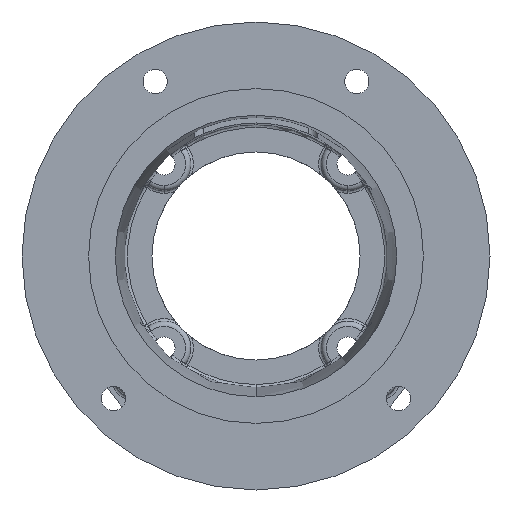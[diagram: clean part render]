
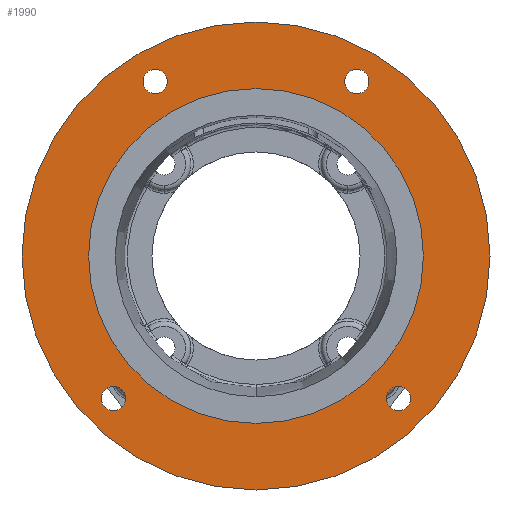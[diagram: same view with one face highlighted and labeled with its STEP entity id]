
A CAD part, front view. The second image highlights one B-rep face of the part: STEP entity #1990.
In plain terms, the highlighted planar face has unit normal (0, -1, 0).
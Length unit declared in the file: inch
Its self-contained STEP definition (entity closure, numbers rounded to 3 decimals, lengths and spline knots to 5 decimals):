
#14 = EDGE_CURVE ( 'NONE', #4776, #6218, #3072, .T. ) ;
#109 = CARTESIAN_POINT ( 'NONE',  ( -1.9375, 0., 3.12147 ) ) ;
#159 = AXIS2_PLACEMENT_3D ( 'NONE', #6653, #897, #7604 ) ;
#320 = EDGE_LOOP ( 'NONE', ( #2661, #9990 ) ) ;
#321 = DIRECTION ( 'NONE',  ( 0., -1., 0. ) ) ;
#381 = CARTESIAN_POINT ( 'NONE',  ( -1.9375, 0., 3.35585 ) ) ;
#477 = VERTEX_POINT ( 'NONE', #6148 ) ;
#499 = ORIENTED_EDGE ( 'NONE', *, *, #1631, .F. ) ;
#509 = EDGE_CURVE ( 'NONE', #12316, #2180, #11828, .T. ) ;
#870 = DIRECTION ( 'NONE',  ( 0., 0., -1. ) ) ;
#897 = DIRECTION ( 'NONE',  ( 0., 1., 0. ) ) ;
#984 = ORIENTED_EDGE ( 'NONE', *, *, #2932, .F. ) ;
#986 = EDGE_CURVE ( 'NONE', #12276, #6348, #11372, .T. ) ;
#1161 = CARTESIAN_POINT ( 'NONE',  ( 0., 0., 4.5 ) ) ;
#1465 = EDGE_CURVE ( 'NONE', #6348, #12276, #6133, .T. ) ;
#1476 = CARTESIAN_POINT ( 'NONE',  ( 2.74004, 0., -2.74004 ) ) ;
#1518 = AXIS2_PLACEMENT_3D ( 'NONE', #2127, #8839, #3106 ) ;
#1592 = CARTESIAN_POINT ( 'NONE',  ( 0., 0., -3.2195 ) ) ;
#1631 = EDGE_CURVE ( 'NONE', #2180, #12316, #2381, .T. ) ;
#1696 = ORIENTED_EDGE ( 'NONE', *, *, #8355, .F. ) ;
#1727 = CARTESIAN_POINT ( 'NONE',  ( 0., 0., 0. ) ) ;
#1990 = ADVANCED_FACE ( 'NONE', ( #4785, #2221, #7301, #10173, #12401, #12103 ), #7562, .F. ) ;
#2107 = DIRECTION ( 'NONE',  ( 0., -1., 0. ) ) ;
#2127 = CARTESIAN_POINT ( 'NONE',  ( 0., 0., 0. ) ) ;
#2180 = VERTEX_POINT ( 'NONE', #9755 ) ;
#2221 = FACE_BOUND ( 'NONE', #320, .T. ) ;
#2261 = AXIS2_PLACEMENT_3D ( 'NONE', #381, #3436, #9252 ) ;
#2308 = EDGE_LOOP ( 'NONE', ( #9996, #9172 ) ) ;
#2381 = CIRCLE ( 'NONE', #3241, 0.23438 ) ;
#2422 = CARTESIAN_POINT ( 'NONE',  ( -2.74004, 0., -2.74004 ) ) ;
#2463 = DIRECTION ( 'NONE',  ( 0., 0., -1. ) ) ;
#2661 = ORIENTED_EDGE ( 'NONE', *, *, #14, .F. ) ;
#2708 = DIRECTION ( 'NONE',  ( 0., 0., -1. ) ) ;
#2801 = DIRECTION ( 'NONE',  ( 0., -1., 0. ) ) ;
#2932 = EDGE_CURVE ( 'NONE', #8322, #477, #8650, .T. ) ;
#2969 = AXIS2_PLACEMENT_3D ( 'NONE', #8537, #2801, #9505 ) ;
#3072 = CIRCLE ( 'NONE', #6597, 0.23438 ) ;
#3106 = DIRECTION ( 'NONE',  ( 0., 0., -1. ) ) ;
#3241 = AXIS2_PLACEMENT_3D ( 'NONE', #6085, #321, #7036 ) ;
#3391 = DIRECTION ( 'NONE',  ( 0., 0., -1. ) ) ;
#3436 = DIRECTION ( 'NONE',  ( 0., -1., 0. ) ) ;
#3445 = EDGE_CURVE ( 'NONE', #6218, #4776, #5655, .T. ) ;
#3508 = DIRECTION ( 'NONE',  ( 0., -1., 0. ) ) ;
#3666 = EDGE_LOOP ( 'NONE', ( #9050, #499 ) ) ;
#4167 = CARTESIAN_POINT ( 'NONE',  ( 2.74004, 0., -2.97441 ) ) ;
#4308 = DIRECTION ( 'NONE',  ( 0., -1., 0. ) ) ;
#4628 = AXIS2_PLACEMENT_3D ( 'NONE', #2422, #9123, #3391 ) ;
#4636 = DIRECTION ( 'NONE',  ( 0., -1., 0. ) ) ;
#4717 = CARTESIAN_POINT ( 'NONE',  ( 1.9375, 0., 3.59022 ) ) ;
#4776 = VERTEX_POINT ( 'NONE', #9447 ) ;
#4785 = FACE_BOUND ( 'NONE', #3666, .T. ) ;
#4793 = AXIS2_PLACEMENT_3D ( 'NONE', #10364, #4636, #11317 ) ;
#5275 = AXIS2_PLACEMENT_3D ( 'NONE', #1727, #8445, #2708 ) ;
#5337 = CARTESIAN_POINT ( 'NONE',  ( -2.74004, 0., -2.97441 ) ) ;
#5462 = AXIS2_PLACEMENT_3D ( 'NONE', #12346, #6621, #870 ) ;
#5486 = AXIS2_PLACEMENT_3D ( 'NONE', #10051, #4308, #10990 ) ;
#5655 = CIRCLE ( 'NONE', #4793, 0.23438 ) ;
#5688 = EDGE_CURVE ( 'NONE', #10956, #10395, #8770, .T. ) ;
#5847 = CIRCLE ( 'NONE', #1518, 3.2195 ) ;
#5937 = EDGE_LOOP ( 'NONE', ( #8850, #11192 ) ) ;
#6085 = CARTESIAN_POINT ( 'NONE',  ( -1.9375, 0., 3.35585 ) ) ;
#6128 = CARTESIAN_POINT ( 'NONE',  ( 0., 0., -4.5 ) ) ;
#6133 = CIRCLE ( 'NONE', #8609, 0.23438 ) ;
#6148 = CARTESIAN_POINT ( 'NONE',  ( -2.74004, 0., -2.50566 ) ) ;
#6218 = VERTEX_POINT ( 'NONE', #4717 ) ;
#6348 = VERTEX_POINT ( 'NONE', #4167 ) ;
#6597 = AXIS2_PLACEMENT_3D ( 'NONE', #10377, #2107, #11159 ) ;
#6614 = CIRCLE ( 'NONE', #5486, 4.5 ) ;
#6621 = DIRECTION ( 'NONE',  ( 0., -1., 0. ) ) ;
#6653 = CARTESIAN_POINT ( 'NONE',  ( -4.5, 0., 0. ) ) ;
#7036 = DIRECTION ( 'NONE',  ( 0., 0., -1. ) ) ;
#7301 = FACE_BOUND ( 'NONE', #10263, .T. ) ;
#7562 = PLANE ( 'NONE',  #159 ) ;
#7604 = DIRECTION ( 'NONE',  ( 0., 0., 1. ) ) ;
#8206 = DIRECTION ( 'NONE',  ( 0., -1., 0. ) ) ;
#8322 = VERTEX_POINT ( 'NONE', #5337 ) ;
#8355 = EDGE_CURVE ( 'NONE', #477, #8322, #11129, .T. ) ;
#8445 = DIRECTION ( 'NONE',  ( 0., -1., 0. ) ) ;
#8537 = CARTESIAN_POINT ( 'NONE',  ( 0., 0., 0. ) ) ;
#8609 = AXIS2_PLACEMENT_3D ( 'NONE', #9238, #3508, #10205 ) ;
#8650 = CIRCLE ( 'NONE', #4628, 0.23438 ) ;
#8696 = ORIENTED_EDGE ( 'NONE', *, *, #986, .F. ) ;
#8740 = VERTEX_POINT ( 'NONE', #1161 ) ;
#8770 = CIRCLE ( 'NONE', #5275, 3.2195 ) ;
#8839 = DIRECTION ( 'NONE',  ( 0., -1., 0. ) ) ;
#8850 = ORIENTED_EDGE ( 'NONE', *, *, #5688, .F. ) ;
#9050 = ORIENTED_EDGE ( 'NONE', *, *, #509, .F. ) ;
#9123 = DIRECTION ( 'NONE',  ( 0., -1., 0. ) ) ;
#9172 = ORIENTED_EDGE ( 'NONE', *, *, #9551, .T. ) ;
#9238 = CARTESIAN_POINT ( 'NONE',  ( 2.74004, 0., -2.74004 ) ) ;
#9252 = DIRECTION ( 'NONE',  ( 0., 0., -1. ) ) ;
#9447 = CARTESIAN_POINT ( 'NONE',  ( 1.9375, 0., 3.12147 ) ) ;
#9505 = DIRECTION ( 'NONE',  ( 0., 0., -1. ) ) ;
#9551 = EDGE_CURVE ( 'NONE', #8740, #11245, #11255, .T. ) ;
#9755 = CARTESIAN_POINT ( 'NONE',  ( -1.9375, 0., 3.59022 ) ) ;
#9892 = EDGE_CURVE ( 'NONE', #11245, #8740, #6614, .T. ) ;
#9990 = ORIENTED_EDGE ( 'NONE', *, *, #3445, .F. ) ;
#9996 = ORIENTED_EDGE ( 'NONE', *, *, #9892, .T. ) ;
#10051 = CARTESIAN_POINT ( 'NONE',  ( 0., 0., 0. ) ) ;
#10140 = EDGE_LOOP ( 'NONE', ( #984, #1696 ) ) ;
#10173 = FACE_BOUND ( 'NONE', #10140, .T. ) ;
#10205 = DIRECTION ( 'NONE',  ( 0., 0., -1. ) ) ;
#10263 = EDGE_LOOP ( 'NONE', ( #10383, #8696 ) ) ;
#10364 = CARTESIAN_POINT ( 'NONE',  ( 1.9375, 0., 3.35585 ) ) ;
#10377 = CARTESIAN_POINT ( 'NONE',  ( 1.9375, 0., 3.35585 ) ) ;
#10383 = ORIENTED_EDGE ( 'NONE', *, *, #1465, .F. ) ;
#10395 = VERTEX_POINT ( 'NONE', #12392 ) ;
#10510 = EDGE_CURVE ( 'NONE', #10395, #10956, #5847, .T. ) ;
#10956 = VERTEX_POINT ( 'NONE', #1592 ) ;
#10990 = DIRECTION ( 'NONE',  ( 0., 0., -1. ) ) ;
#11129 = CIRCLE ( 'NONE', #5462, 0.23438 ) ;
#11159 = DIRECTION ( 'NONE',  ( 0., 0., -1. ) ) ;
#11192 = ORIENTED_EDGE ( 'NONE', *, *, #10510, .F. ) ;
#11245 = VERTEX_POINT ( 'NONE', #6128 ) ;
#11255 = CIRCLE ( 'NONE', #2969, 4.5 ) ;
#11317 = DIRECTION ( 'NONE',  ( 0., 0., -1. ) ) ;
#11356 = CARTESIAN_POINT ( 'NONE',  ( 2.74004, 0., -2.50566 ) ) ;
#11372 = CIRCLE ( 'NONE', #12281, 0.23438 ) ;
#11828 = CIRCLE ( 'NONE', #2261, 0.23438 ) ;
#12103 = FACE_OUTER_BOUND ( 'NONE', #2308, .T. ) ;
#12276 = VERTEX_POINT ( 'NONE', #11356 ) ;
#12281 = AXIS2_PLACEMENT_3D ( 'NONE', #1476, #8206, #2463 ) ;
#12316 = VERTEX_POINT ( 'NONE', #109 ) ;
#12346 = CARTESIAN_POINT ( 'NONE',  ( -2.74004, 0., -2.74004 ) ) ;
#12392 = CARTESIAN_POINT ( 'NONE',  ( 0., 0., 3.2195 ) ) ;
#12401 = FACE_BOUND ( 'NONE', #5937, .T. ) ;
